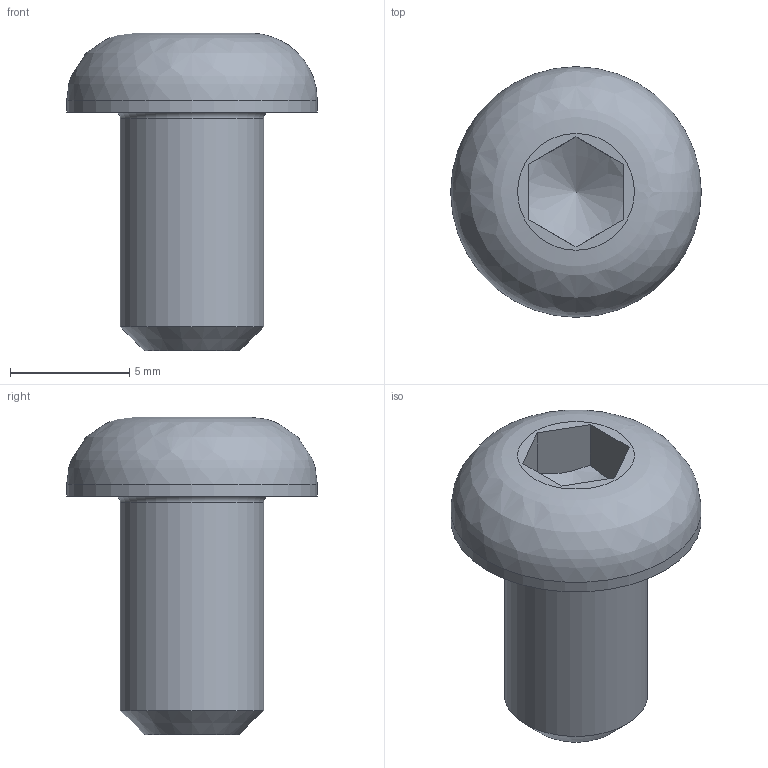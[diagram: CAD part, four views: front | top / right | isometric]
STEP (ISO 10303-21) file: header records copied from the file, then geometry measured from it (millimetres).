
FILE_DESCRIPTION(/* description */ (''),/* implementation_level */ '2;1');
FILE_NAME(/* name */ 'C:\Users\unitec\Documents\Inventor\各種小物\JIS\JIS B 1174 六角穴付きボタンボルト\BASE\M6\M6x10.stp',/* time_stamp */ '2015-07-21T18:23:31+09:00',/* author */ ('unitec'),/* organization */ (''),/* preprocessor_version */ 'ST-DEVELOPER v15.2',/* originating_system */ 'Autodesk Inventor 2014',/* authorisation */ '');
FILE_SCHEMA (('AUTOMOTIVE_DESIGN { 1 0 10303 214 3 1 1 }'));
Length unit declared in the file: millimetre
Products named in the file (1): M6x10
Bounding box: 10.5 x 10.5 x 13.3 mm (x, y, z)
Volume: 475.2 mm3; surface area: 445.6 mm2
Topology: 1 solids, 1 shells, 15 faces, 35 edges, 23 vertices
Faces by surface type: plane 9, cylinder 2, cone 2, torus 1, bspline 1
Full cylindrical faces by diameter (mm): 6 x1, 10.5 x1
Entity records: 423 total; most frequent: CARTESIAN_POINT 105, DIRECTION 60, ORIENTED_EDGE 56, EDGE_CURVE 28, AXIS2_PLACEMENT_3D 24, EDGE_LOOP 21, VERTEX_POINT 21, FACE_OUTER_BOUND 15
